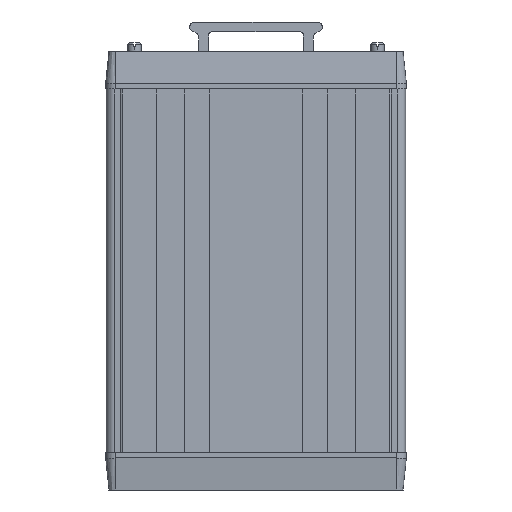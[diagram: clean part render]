
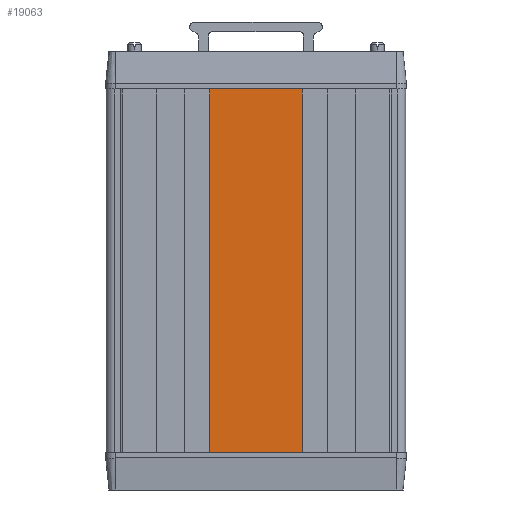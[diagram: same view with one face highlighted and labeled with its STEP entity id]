
A CAD part, front view. The second image highlights one B-rep face of the part: STEP entity #19063.
In plain terms, the highlighted planar face has unit normal (0, -1, 0).
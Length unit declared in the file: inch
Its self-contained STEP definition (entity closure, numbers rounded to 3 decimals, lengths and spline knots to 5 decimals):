
#3763=DIRECTION('',(-1.,0.,0.));
#3764=VECTOR('',#3763,1.76);
#3765=CARTESIAN_POINT('',(0.88,0.,-6.95));
#3766=LINE('',#3765,#3764);
#3767=DIRECTION('',(-1.,0.,0.));
#3768=VECTOR('',#3767,1.76);
#3769=CARTESIAN_POINT('',(0.88,0.,0.));
#3770=LINE('',#3769,#3768);
#3771=DIRECTION('',(0.,0.,-1.));
#3772=VECTOR('',#3771,6.95);
#3773=CARTESIAN_POINT('',(0.88,0.,0.));
#3774=LINE('',#3773,#3772);
#3783=DIRECTION('',(0.,0.,-1.));
#3784=VECTOR('',#3783,6.95);
#3785=CARTESIAN_POINT('',(-0.88,0.,0.));
#3786=LINE('',#3785,#3784);
#12123=CARTESIAN_POINT('',(0.88,0.,0.));
#12124=VERTEX_POINT('',#12123);
#12125=CARTESIAN_POINT('',(-0.88,0.,0.));
#12126=VERTEX_POINT('',#12125);
#12599=CARTESIAN_POINT('',(0.88,0.,-6.95));
#12600=VERTEX_POINT('',#12599);
#12601=CARTESIAN_POINT('',(-0.88,0.,-6.95));
#12602=VERTEX_POINT('',#12601);
#19051=CARTESIAN_POINT('',(0.88,0.,0.));
#19052=DIRECTION('',(0.,-1.,0.));
#19053=DIRECTION('',(-1.,0.,0.));
#19054=AXIS2_PLACEMENT_3D('',#19051,#19052,#19053);
#19055=PLANE('',#19054);
#19056=ORIENTED_EDGE('',*,*,#15688,.T.);
#19058=ORIENTED_EDGE('',*,*,#19057,.F.);
#19059=ORIENTED_EDGE('',*,*,#14893,.F.);
#19060=ORIENTED_EDGE('',*,*,#19044,.T.);
#19061=EDGE_LOOP('',(#19056,#19058,#19059,#19060));
#19062=FACE_OUTER_BOUND('',#19061,.F.);
#19063=ADVANCED_FACE('',(#19062),#19055,.T.);
#14893=EDGE_CURVE('',#12124,#12126,#3770,.T.);
#15688=EDGE_CURVE('',#12600,#12602,#3766,.T.);
#19044=EDGE_CURVE('',#12124,#12600,#3774,.T.);
#19057=EDGE_CURVE('',#12126,#12602,#3786,.T.);
